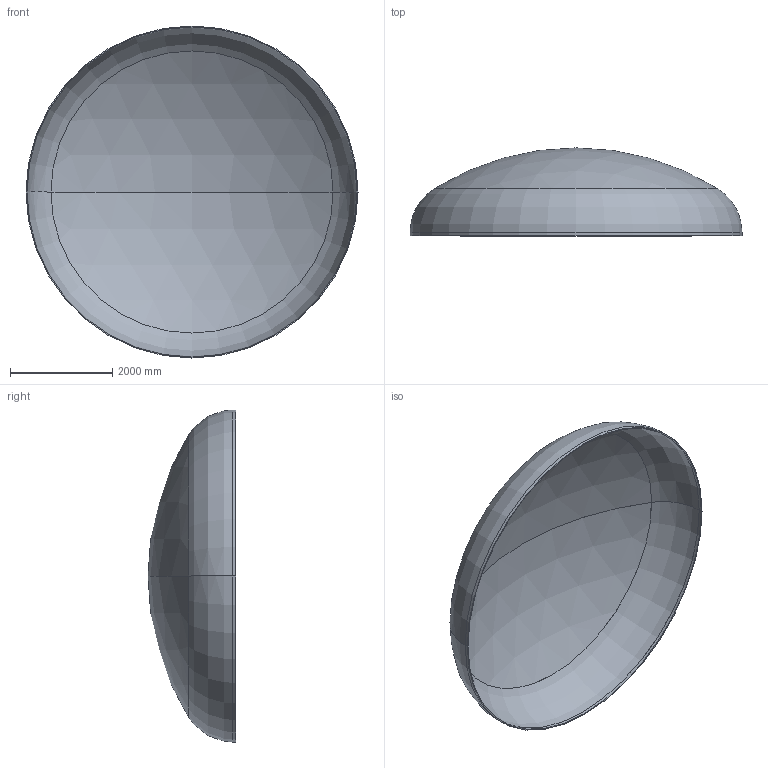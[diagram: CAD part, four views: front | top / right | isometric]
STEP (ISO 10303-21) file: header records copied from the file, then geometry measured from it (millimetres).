
FILE_DESCRIPTION (( 'STEP AP203' ), '1' );
FILE_NAME ('DIN 28013 Korbbogenform_-_Boden DIN 28013 - 6500 x 60 - I - s=19.step', '2016-07-04T10:40:21', ( '' ), ( '' ), 'SwSTEP 2.0', 'SolidWorks 2013', '' );
FILE_SCHEMA (( 'CONFIG_CONTROL_DESIGN' ));
Length unit declared in the file: millimetre
Products named in the file (1): DIN 28013 Korbbogenform_-_Boden DIN 28013 - 6500 x 60 - I - s=19
Bounding box: 6500 x 1720.54 x 6500 mm (x, y, z)
Volume: 892940136.2 mm3; surface area: 94381268.9 mm2
Topology: 1 solids, 1 shells, 13 faces, 24 edges, 14 vertices
Faces by surface type: torus 4, cylinder 4, sphere 4, plane 1
Entity records: 407 total; most frequent: DIRECTION 72, CARTESIAN_POINT 52, ORIENTED_EDGE 48, AXIS2_PLACEMENT_3D 34, EDGE_CURVE 24, CIRCLE 20, VERTEX_POINT 14, EDGE_LOOP 14
